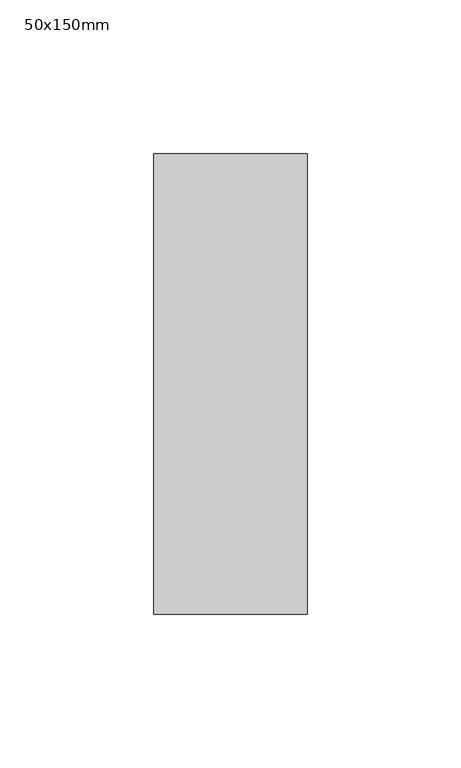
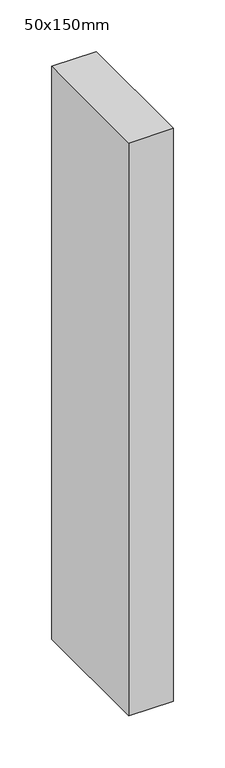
"""IFC4 building model written with IfcOpenShell, lengths in millimetres: member geometry, 長方形マリオン : 50x150mm."""

from ifc_helpers import new_model, si_unit, frame, origin, place, context, project, spatial, polyline, outline, extrude, source, transform, mapped, element, save


def member_50x150mm_5157afd8(model_context):
    return source(origin(), model_context, "Body", "SweptSolid", [
        extrude(outline(polyline([(0.0, 75.0), (0.0, -75.0), (-50.0, -75.0), (-50.0, 75.0), (0.0, 75.0)])), frame((0.0, 0.0, -679.1666667), z_axis=(0.0, 0.0, 1.0), x_axis=(1.0, 0.0, 0.0)), (0.0, 0.0, 1.0), 679.1666667),
    ])


if __name__ == "__main__":
    model = new_model("IFC4")
    model_context = context("Model", 3, world=origin())
    ifc_project = project(units=[si_unit("LENGTHUNIT", "METRE", prefix="MILLI")], contexts=[model_context])
    site = spatial("IfcSite", under=ifc_project)
    building = spatial("IfcBuilding", under=site)
    placement = place(None, origin())
    member_50x150mm_shape = member_50x150mm_5157afd8(model_context)
    element("IfcMember", 1, ObjectType="長方形マリオン : 50x150mm", at=placement, inside=building, context=model_context, shape_type="MappedRepresentation", body=[
        mapped(member_50x150mm_shape, transform((0.0, 0.0, 0.0), x_axis=(1.0, 0.0, 0.0), y_axis=(0.0, 1.0, 0.0), z_axis=(0.0, 0.0, 1.0))),
    ])
    save(model, "model.ifc")
